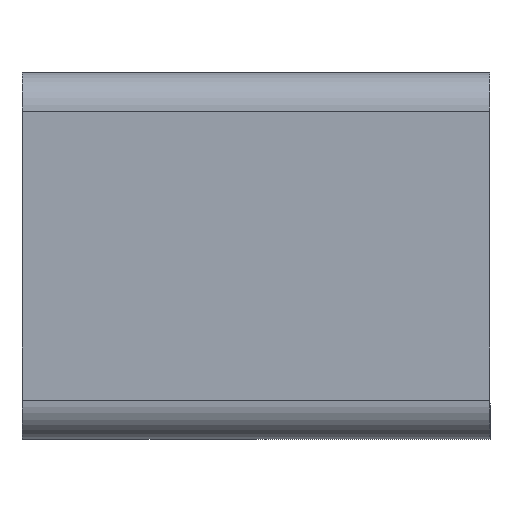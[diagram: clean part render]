
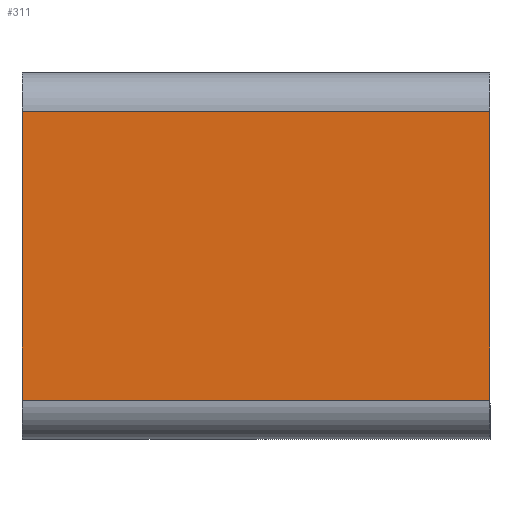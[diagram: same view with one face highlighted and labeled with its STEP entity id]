
A CAD part, top view. The second image highlights one B-rep face of the part: STEP entity #311.
In plain terms, the highlighted planar face has unit normal (0, 0, 1).
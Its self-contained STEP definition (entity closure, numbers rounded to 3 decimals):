
#29 = VECTOR ( 'NONE', #109, 1000. ) ;
#62 = ORIENTED_EDGE ( 'NONE', *, *, #368, .T. ) ;
#87 = LINE ( 'NONE', #312, #301 ) ;
#88 = VERTEX_POINT ( 'NONE', #303 ) ;
#90 = EDGE_LOOP ( 'NONE', ( #290, #131, #323, #62 ) ) ;
#97 = EDGE_CURVE ( 'NONE', #153, #232, #159, .T. ) ;
#109 = DIRECTION ( 'NONE',  ( 0., -1., 0. ) ) ;
#110 = DIRECTION ( 'NONE',  ( 0., -1., 0. ) ) ;
#112 = LINE ( 'NONE', #361, #363 ) ;
#115 = VERTEX_POINT ( 'NONE', #354 ) ;
#131 = ORIENTED_EDGE ( 'NONE', *, *, #97, .T. ) ;
#153 = VERTEX_POINT ( 'NONE', #172 ) ;
#159 = LINE ( 'NONE', #186, #292 ) ;
#169 = CARTESIAN_POINT ( 'NONE',  ( 0., 0., 28. ) ) ;
#172 = CARTESIAN_POINT ( 'NONE',  ( -30., -18.5, 28. ) ) ;
#186 = CARTESIAN_POINT ( 'NONE',  ( 0., -18.5, 28. ) ) ;
#221 = CARTESIAN_POINT ( 'NONE',  ( 30., -18.5, 28. ) ) ;
#232 = VERTEX_POINT ( 'NONE', #221 ) ;
#241 = EDGE_CURVE ( 'NONE', #115, #232, #112, .T. ) ;
#245 = LINE ( 'NONE', #362, #29 ) ;
#273 = DIRECTION ( 'NONE',  ( 0., 0., -1. ) ) ;
#277 = FACE_OUTER_BOUND ( 'NONE', #90, .T. ) ;
#289 = DIRECTION ( 'NONE',  ( -1., 0., 0. ) ) ;
#290 = ORIENTED_EDGE ( 'NONE', *, *, #317, .T. ) ;
#292 = VECTOR ( 'NONE', #330, 1000. ) ;
#301 = VECTOR ( 'NONE', #289, 1000. ) ;
#303 = CARTESIAN_POINT ( 'NONE',  ( -30., 18.5, 28. ) ) ;
#311 = ADVANCED_FACE ( 'NONE', ( #277 ), #339, .F. ) ;
#312 = CARTESIAN_POINT ( 'NONE',  ( -30., 18.5, 28. ) ) ;
#317 = EDGE_CURVE ( 'NONE', #88, #153, #245, .T. ) ;
#323 = ORIENTED_EDGE ( 'NONE', *, *, #241, .F. ) ;
#330 = DIRECTION ( 'NONE',  ( 1., 0., 0. ) ) ;
#337 = DIRECTION ( 'NONE',  ( -1., 0., 0. ) ) ;
#339 = PLANE ( 'NONE',  #355 ) ;
#354 = CARTESIAN_POINT ( 'NONE',  ( 30., 18.5, 28. ) ) ;
#355 = AXIS2_PLACEMENT_3D ( 'NONE', #169, #273, #337 ) ;
#361 = CARTESIAN_POINT ( 'NONE',  ( 30., 23.5, 28. ) ) ;
#362 = CARTESIAN_POINT ( 'NONE',  ( -30., 23.5, 28. ) ) ;
#363 = VECTOR ( 'NONE', #110, 1000. ) ;
#368 = EDGE_CURVE ( 'NONE', #115, #88, #87, .T. ) ;
